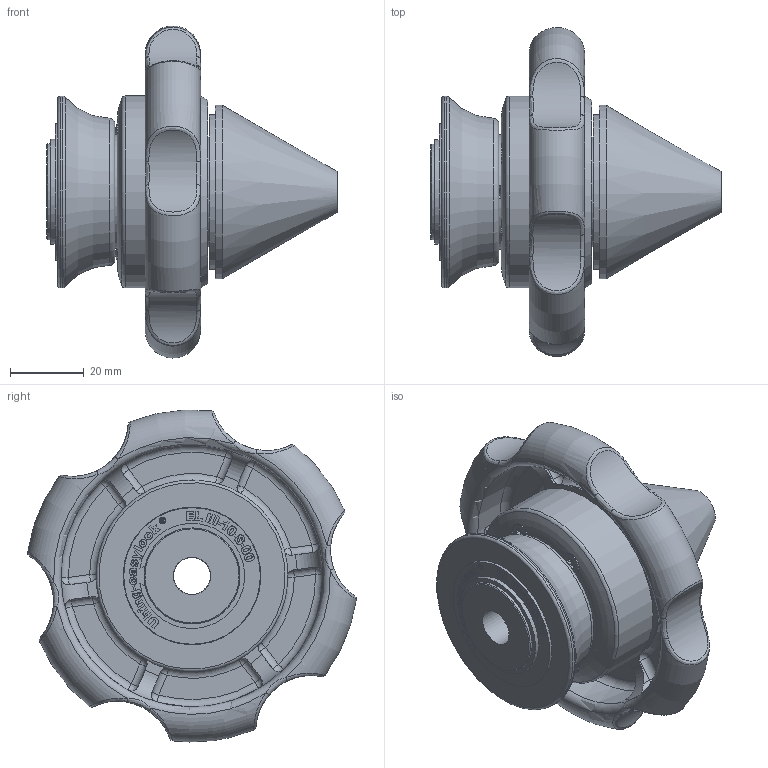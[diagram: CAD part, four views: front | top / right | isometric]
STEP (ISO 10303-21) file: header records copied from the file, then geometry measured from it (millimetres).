
FILE_DESCRIPTION (( 'STEP AP214' ), '1' );
FILE_NAME ('EL-III-10-K60.STEP', '2023-03-16T12:21:07', ( '' ), ( '' ), 'SwSTEP 2.0', 'SolidWorks 2022', '' );
FILE_SCHEMA (( 'AUTOMOTIVE_DESIGN' ));
Length unit declared in the file: millimetre
Products named in the file (1): EL-III-10-K60
Bounding box: 78.64 x 89.08 x 89.95 mm (x, y, z)
Volume: 105392.1 mm3; surface area: 70870.7 mm2
Topology: 40 solids, 70 shells, 1234 faces, 3075 edges, 1991 vertices
Faces by surface type: plane 491, bspline 388, cylinder 233, cone 58, torus 40, sphere 24
Full cylindrical faces by diameter (mm): 1.4 x2, 1.7 x2, 2.5 x7, 3 x4, 3.1 x4, 3.3 x1, 4 x3, 4.2 x4, 5.7 x4, 10.03 x1, 10.05 x2, 10.1 x1, 19.7 x1, 25 x3, 26 x5, 26.05 x1, 26.335 x2, 28.5 x4, 30 x2, 31 x1, 31.3 x1, 33.3 x2, 34.3 x4, 37 x5, 37.3 x1, 40.3 x2, 42 x1, 44 x4, 45 x2, 47 x1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
Entity records: 84303 total; most frequent: CARTESIAN_POINT 44733, ORIENTED_EDGE 5620, DIRECTION 4348, EDGE_CURVE 2810, VERTEX_POINT 1904, EDGE_LOOP 1488, AXIS2_PLACEMENT_3D 1469, VECTOR 1410
